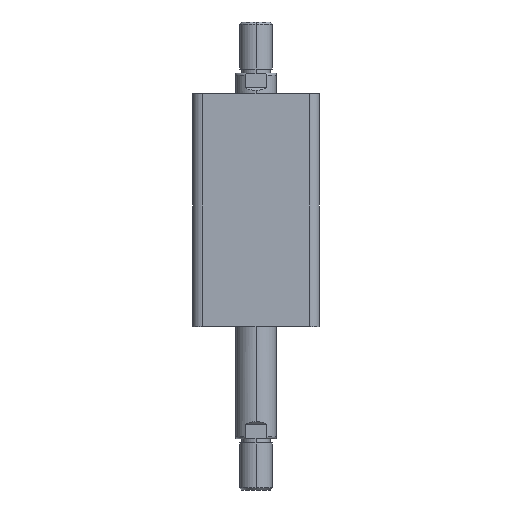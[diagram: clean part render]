
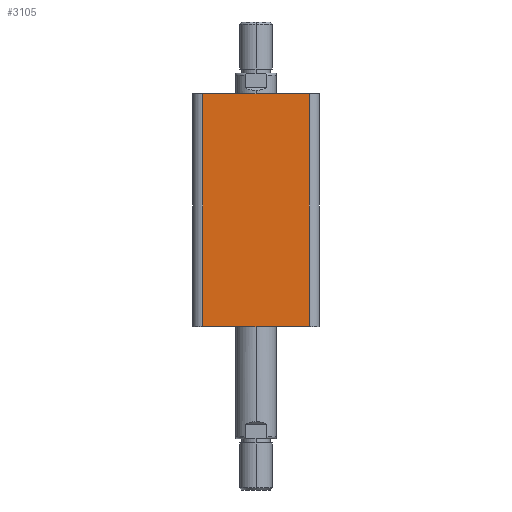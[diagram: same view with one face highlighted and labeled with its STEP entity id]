
A CAD part, left-side view. The second image highlights one B-rep face of the part: STEP entity #3105.
In plain terms, the highlighted planar face has unit normal (-1, 0, 0).
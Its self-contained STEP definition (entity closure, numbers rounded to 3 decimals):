
#298 = ORIENTED_EDGE ( 'NONE', *, *, #3435, .T. ) ;
#299 = ORIENTED_EDGE ( 'NONE', *, *, #3431, .T. ) ;
#300 = ORIENTED_EDGE ( 'NONE', *, *, #3432, .F. ) ;
#301 = ORIENTED_EDGE ( 'NONE', *, *, #3434, .T. ) ;
#641 = CARTESIAN_POINT ( 'NONE',  ( -31., -26., 0. ) ) ;
#659 = CARTESIAN_POINT ( 'NONE',  ( -31., 26., 114. ) ) ;
#671 = CARTESIAN_POINT ( 'NONE',  ( -31., -26., 114. ) ) ;
#687 = CARTESIAN_POINT ( 'NONE',  ( -31., 26., 0. ) ) ;
#825 = CARTESIAN_POINT ( 'NONE',  ( -31., 31., 114. ) ) ;
#833 = PLANE ( 'NONE',  #3116 ) ;
#835 = DIRECTION ( 'NONE',  ( 1., 0., 0. ) ) ;
#836 = DIRECTION ( 'NONE',  ( 0., 1., 0. ) ) ;
#1042 = FACE_OUTER_BOUND ( 'NONE', #2809, .T. ) ;
#1240 = LINE ( 'NONE', #1540, #1251 ) ;
#1246 = LINE ( 'NONE', #1555, #1249 ) ;
#1249 = VECTOR ( 'NONE', #1557, 1000. ) ;
#1251 = VECTOR ( 'NONE', #1558, 1000. ) ;
#1252 = LINE ( 'NONE', #1561, #1255 ) ;
#1254 = LINE ( 'NONE', #1563, #1257 ) ;
#1255 = VECTOR ( 'NONE', #1562, 1000. ) ;
#1257 = VECTOR ( 'NONE', #1564, 1000. ) ;
#1540 = CARTESIAN_POINT ( 'NONE',  ( -31., 31., 114. ) ) ;
#1555 = CARTESIAN_POINT ( 'NONE',  ( -31., -26., 114. ) ) ;
#1557 = DIRECTION ( 'NONE',  ( 0., 0., 1. ) ) ;
#1558 = DIRECTION ( 'NONE',  ( 0., -1., 0. ) ) ;
#1561 = CARTESIAN_POINT ( 'NONE',  ( -31., 26., 114. ) ) ;
#1562 = DIRECTION ( 'NONE',  ( 0., 0., -1. ) ) ;
#1563 = CARTESIAN_POINT ( 'NONE',  ( -31., 31., 0. ) ) ;
#1564 = DIRECTION ( 'NONE',  ( 0., -1., 0. ) ) ;
#2809 = EDGE_LOOP ( 'NONE', ( #298, #299, #300, #301 ) ) ;
#3006 = VERTEX_POINT ( 'NONE', #641 ) ;
#3022 = VERTEX_POINT ( 'NONE', #659 ) ;
#3034 = VERTEX_POINT ( 'NONE', #671 ) ;
#3050 = VERTEX_POINT ( 'NONE', #687 ) ;
#3105 = ADVANCED_FACE ( 'NONE', ( #1042 ), #833, .F. ) ;
#3116 = AXIS2_PLACEMENT_3D ( 'NONE', #825, #835, #836 ) ;
#3431 = EDGE_CURVE ( 'NONE', #3006, #3034, #1246, .T. ) ;
#3432 = EDGE_CURVE ( 'NONE', #3022, #3034, #1240, .T. ) ;
#3434 = EDGE_CURVE ( 'NONE', #3022, #3050, #1252, .T. ) ;
#3435 = EDGE_CURVE ( 'NONE', #3050, #3006, #1254, .T. ) ;
